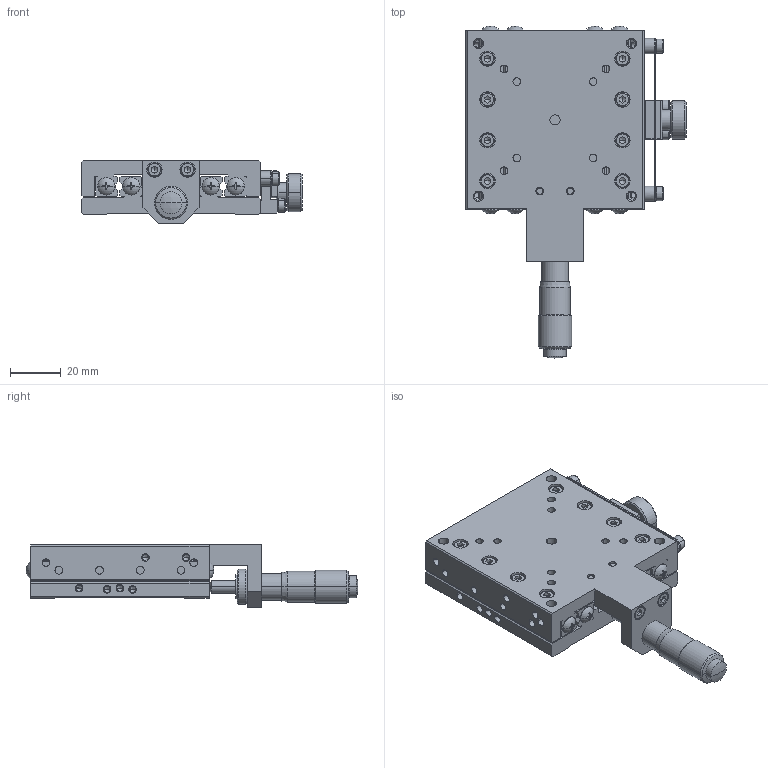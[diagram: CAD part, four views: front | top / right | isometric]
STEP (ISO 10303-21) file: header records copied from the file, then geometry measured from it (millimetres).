
FILE_DESCRIPTION (( 'STEP AP214' ), '1' );
FILE_NAME ('XM07A-C1Z.STEP', '2009-05-11T05:26:15', ( ' ' ), ( ' ' ), 'SwSTEP 2.0', 'SolidWorks 2008', '' );
FILE_SCHEMA (( 'AUTOMOTIVE_DESIGN' ));
Length unit declared in the file: millimetre
Products named in the file (5): 001490-1023(3D)-1; 001490-1023(3D)-Part-2-1; 001490-1023(3D)-Part-1-1; 001490-1011(3D)-1; XM07A-C1Z
Assembly tree (4 placements, depth 3):
  XM07A-C1Z
    001490-1023(3D)-1
      001490-1023(3D)-Part-1-1
      001490-1023(3D)-Part-2-1
    001490-1011(3D)-1
Bounding box: 86.5 x 130.37 x 24.5 mm (x, y, z)
Volume: 95798.7 mm3; surface area: 49474.1 mm2
Topology: 3 solids, 40 shells, 1697 faces, 4047 edges, 2430 vertices
Faces by surface type: plane 771, cylinder 542, cone 348, sphere 20, torus 16
Entity records: 49187 total; most frequent: CARTESIAN_POINT 9114, DIRECTION 8916, ORIENTED_EDGE 7910, EDGE_CURVE 3955, AXIS2_PLACEMENT_3D 3427, VERTEX_POINT 2426, VECTOR 2062, LINE 2062
